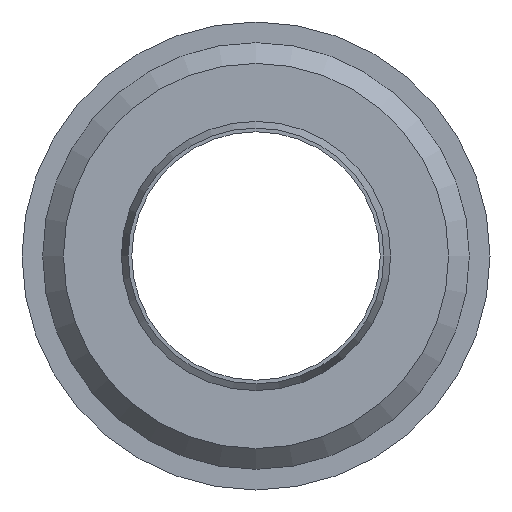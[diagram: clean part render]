
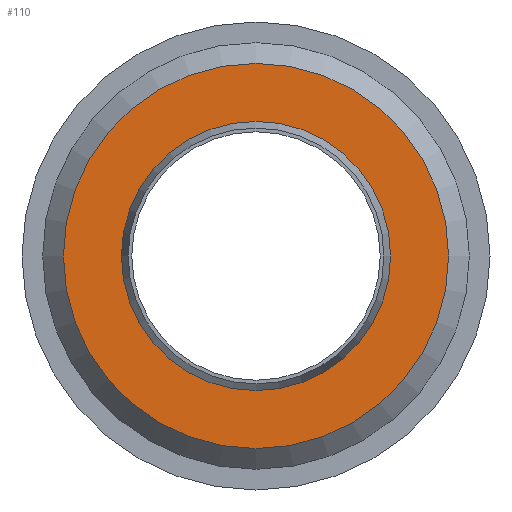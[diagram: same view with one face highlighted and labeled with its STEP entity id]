
A CAD part, left-side view. The second image highlights one B-rep face of the part: STEP entity #110.
In plain terms, the highlighted planar face has unit normal (-1, 0, 0).
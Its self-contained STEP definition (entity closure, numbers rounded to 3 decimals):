
#110 = ADVANCED_FACE( '', ( #243, #244 ), #245, .F. );
#243 = FACE_BOUND( '', #370, .T. );
#244 = FACE_OUTER_BOUND( '', #371, .T. );
#245 = PLANE( '', #372 );
#370 = EDGE_LOOP( '', ( #547 ) );
#371 = EDGE_LOOP( '', ( #548 ) );
#372 = AXIS2_PLACEMENT_3D( '', #549, #550, #551 );
#547 = ORIENTED_EDGE( '', *, *, #595, .F. );
#548 = ORIENTED_EDGE( '', *, *, #576, .T. );
#549 = CARTESIAN_POINT( '', ( -4.5, 9.3, 0. ) );
#550 = DIRECTION( '', ( 1., 0., 0. ) );
#551 = DIRECTION( '', ( 0., 1., 0. ) );
#576 = EDGE_CURVE( '', #647, #647, #648, .T. );
#595 = EDGE_CURVE( '', #678, #678, #679, .T. );
#647 = VERTEX_POINT( '', #737 );
#648 = CIRCLE( '', #738, 9.3 );
#678 = VERTEX_POINT( '', #768 );
#679 = CIRCLE( '', #769, 6.5 );
#737 = CARTESIAN_POINT( '', ( -4.5, -9.3, 0. ) );
#738 = AXIS2_PLACEMENT_3D( '', #831, #832, #833 );
#768 = CARTESIAN_POINT( '', ( -4.5, -6.5, 0. ) );
#769 = AXIS2_PLACEMENT_3D( '', #867, #868, #869 );
#831 = CARTESIAN_POINT( '', ( -4.5, 0., 0. ) );
#832 = DIRECTION( '', ( -1., 0., 0. ) );
#833 = DIRECTION( '', ( 0., -1., 0. ) );
#867 = CARTESIAN_POINT( '', ( -4.5, 0., 0. ) );
#868 = DIRECTION( '', ( -1., 0., 0. ) );
#869 = DIRECTION( '', ( 0., -1., 0. ) );
